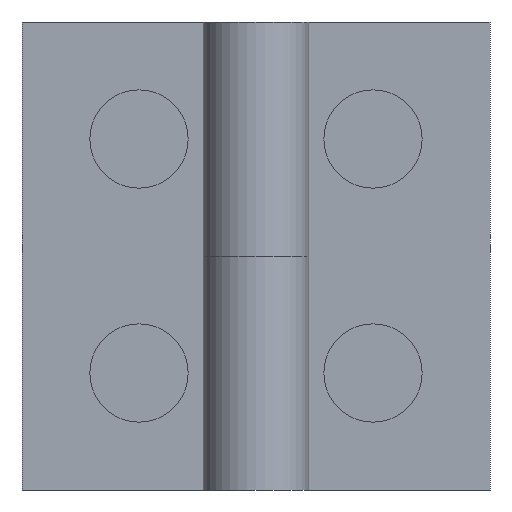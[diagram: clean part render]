
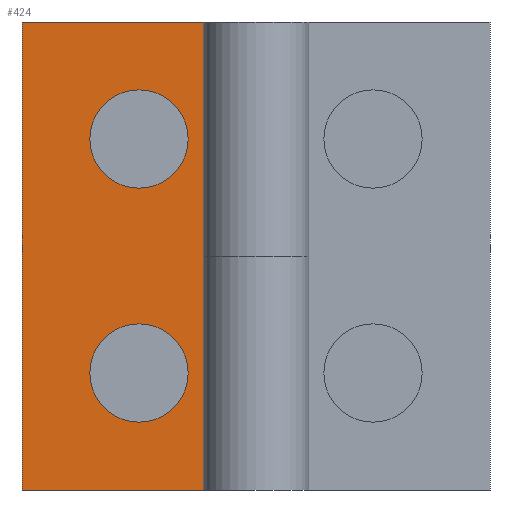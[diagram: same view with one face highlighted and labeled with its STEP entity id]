
A CAD part, front view. The second image highlights one B-rep face of the part: STEP entity #424.
In plain terms, the highlighted planar face has unit normal (0, -1, 0).
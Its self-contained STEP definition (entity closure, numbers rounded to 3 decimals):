
#112=CARTESIAN_POINT('',(-11.6,-6.,-20.));
#113=VERTEX_POINT('',#112);
#114=CARTESIAN_POINT('',(-20.,-6.,-20.));
#115=DIRECTION('',(0.0,1.0,0.0));
#116=DIRECTION('',(1.0,0.0,0.0));
#117=AXIS2_PLACEMENT_3D('',#114,#115,#116);
#118=CIRCLE('',#117,8.4);
#119=EDGE_CURVE('',#113,#113,#118,.T.);
#181=CARTESIAN_POINT('',(-11.6,-6.,20.));
#182=VERTEX_POINT('',#181);
#183=CARTESIAN_POINT('',(-20.,-6.,20.));
#184=DIRECTION('',(0.0,1.0,0.0));
#185=DIRECTION('',(1.0,0.0,0.0));
#186=AXIS2_PLACEMENT_3D('',#183,#184,#185);
#187=CIRCLE('',#186,8.4);
#188=EDGE_CURVE('',#182,#182,#187,.T.);
#260=CARTESIAN_POINT('',(-40.,-6.,40.));
#261=VERTEX_POINT('',#260);
#268=CARTESIAN_POINT('',(-9.,-6.,40.));
#269=VERTEX_POINT('',#268);
#270=CARTESIAN_POINT('',(-9.,-6.,40.));
#271=DIRECTION('',(-1.0,0.0,0.0));
#272=VECTOR('',#271,31.);
#273=LINE('',#270,#272);
#274=EDGE_CURVE('',#269,#261,#273,.T.);
#290=CARTESIAN_POINT('',(-9.,-6.,0.0));
#291=VERTEX_POINT('',#290);
#292=CARTESIAN_POINT('',(-9.,-6.,-40.));
#293=VERTEX_POINT('',#292);
#294=CARTESIAN_POINT('',(-9.,-6.,0.0));
#295=DIRECTION('',(0.0,0.0,-1.0));
#296=VECTOR('',#295,40.);
#297=LINE('',#294,#296);
#298=EDGE_CURVE('',#291,#293,#297,.T.);
#389=CARTESIAN_POINT('',(-40.,-6.,0.0));
#390=DIRECTION('',(0.0,-1.0,0.0));
#391=DIRECTION('',(0.0,0.0,1.0));
#392=AXIS2_PLACEMENT_3D('',#389,#390,#391);
#393=PLANE('',#392);
#394=CARTESIAN_POINT('',(-40.,-6.,-40.));
#395=VERTEX_POINT('',#394);
#396=CARTESIAN_POINT('',(-40.,-6.,-40.));
#397=DIRECTION('',(1.0,0.0,0.0));
#398=VECTOR('',#397,31.);
#399=LINE('',#396,#398);
#400=EDGE_CURVE('',#395,#293,#399,.T.);
#401=ORIENTED_EDGE('',*,*,#400,.T.);
#402=ORIENTED_EDGE('',*,*,#298,.F.);
#403=CARTESIAN_POINT('',(-9.,-6.,0.0));
#404=DIRECTION('',(0.0,0.0,1.0));
#405=VECTOR('',#404,40.);
#406=LINE('',#403,#405);
#407=EDGE_CURVE('',#291,#269,#406,.T.);
#408=ORIENTED_EDGE('',*,*,#407,.T.);
#409=ORIENTED_EDGE('',*,*,#274,.T.);
#410=CARTESIAN_POINT('',(-40.,-6.,-40.));
#411=DIRECTION('',(0.0,0.0,1.0));
#412=VECTOR('',#411,80.);
#413=LINE('',#410,#412);
#414=EDGE_CURVE('',#395,#261,#413,.T.);
#415=ORIENTED_EDGE('',*,*,#414,.F.);
#416=EDGE_LOOP('',(#401,#402,#408,#409,#415));
#417=FACE_OUTER_BOUND('',#416,.T.);
#418=ORIENTED_EDGE('',*,*,#119,.T.);
#419=EDGE_LOOP('',(#418));
#420=FACE_BOUND('',#419,.T.);
#421=ORIENTED_EDGE('',*,*,#188,.T.);
#422=EDGE_LOOP('',(#421));
#423=FACE_BOUND('',#422,.T.);
#424=ADVANCED_FACE('',(#417,#420,#423),#393,.T.);
